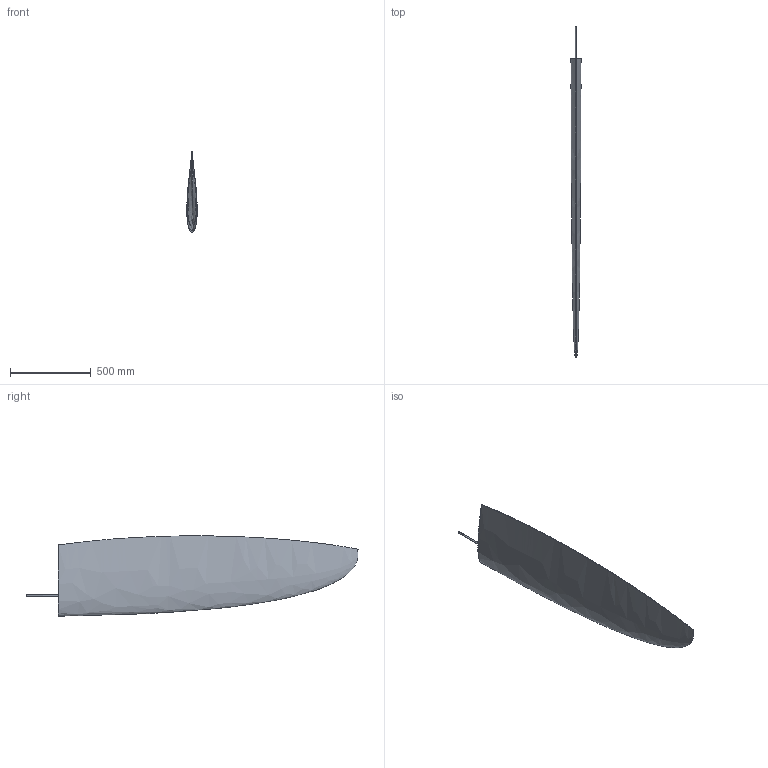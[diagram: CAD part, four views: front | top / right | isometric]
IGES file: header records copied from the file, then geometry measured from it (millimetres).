
Start section: SolidWorks IGES file using analytic representation for surfaces
Global section: file name: X:\solidworks\Rudder\RUD00\Rudderblade RUD35R.IGS; native system: SolidWorks 2010; preprocessor: SolidWorks 2010; author: Klaus Jeppsen; date: 101214.103732; units: millimetre
Bounding box: 64.65 x 2061.28 x 498.74 mm (x, y, z)
Surface area: 1567496.8 mm2 (no closed solid volume)
Topology: 0 solids, 0 shells, 9 faces, 383 edges, 381 vertices
Faces by surface type: bspline 7, revolution 2
